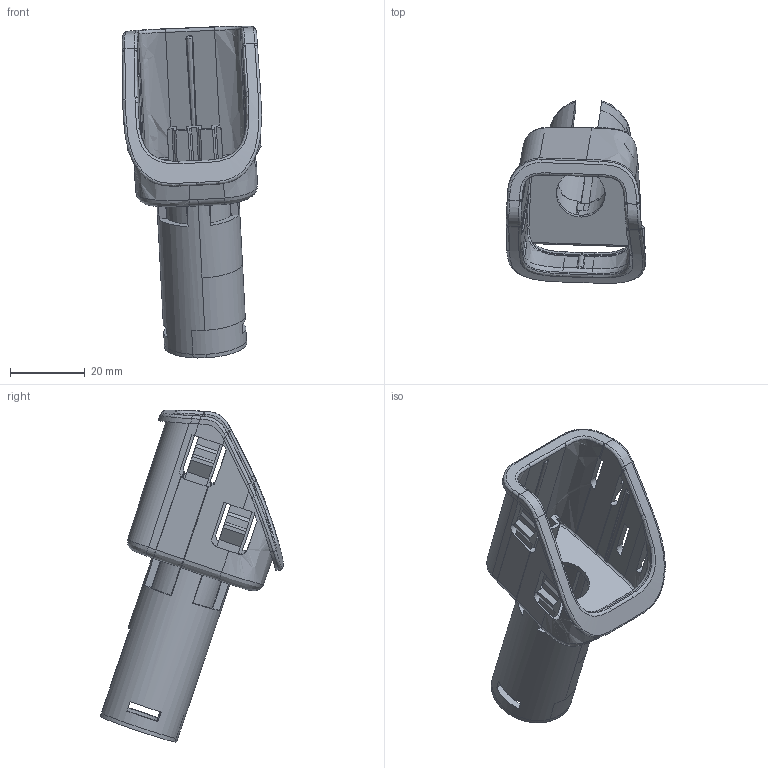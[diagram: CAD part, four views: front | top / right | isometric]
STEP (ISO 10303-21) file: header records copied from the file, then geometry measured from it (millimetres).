
FILE_DESCRIPTION(('CATIA V5 STEP Exchange'),'2;1');
FILE_NAME('F:\11-X3000\2.0平台提升\2.0外观提升\0807\1217更改方案\SHT0011970.stp','2020-12-21T03:25:13+00:00',('none'),('none'),'CATIA Version 5 Release 20 GA (IN-10)','CATIA V5 STEP AP203 Edition 2','none');
FILE_SCHEMA(('AP203_CONFIGURATION_CONTROLLED_3D_DESIGN_OF_MECHANICAL_PARTS_AND_ASSEMBLIES_MIM_LF { 1 0 10303 403 2 1 2}'));
Length unit declared in the file: millimetre
Products named in the file (1): SHT0011970
Bounding box: 37.15 x 48.79 x 88.57 mm (x, y, z)
Volume: 14588.8 mm3; surface area: 15990.3 mm2
Topology: 1 solids, 1 shells, 438 faces, 1271 edges, 820 vertices
Faces by surface type: bspline 208, plane 135, cylinder 85, extrusion 10
Entity records: 30393 total; most frequent: CARTESIAN_POINT 21246, ORIENTED_EDGE 2538, EDGE_CURVE 1269, B_SPLINE_CURVE_WITH_KNOTS 848, DIRECTION 821, VERTEX_POINT 816, EDGE_LOOP 447, ADVANCED_FACE 438
